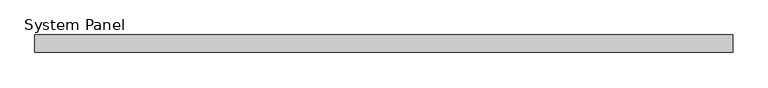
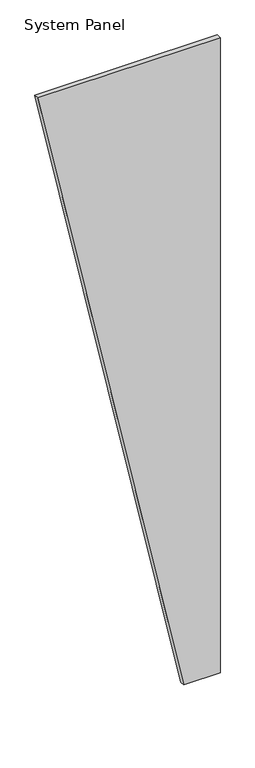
"""IFC4 building model written with IfcOpenShell, lengths in millimetres: plate geometry, System Panel : Purline 25mm Vertical - Plain RHEA - PUR."""

from ifc_helpers import new_model, si_unit, frame, origin, place, context, project, spatial, polyline, outline, extrude, source, transform, mapped, element, save


def system_panel_06980da2(model_context):
    return source(origin(), model_context, "Body", "SweptSolid", [
        extrude(outline(polyline([(0.0, 300.0), (0.0, 500.0), (3679.9704237, 500.0), (3679.9704237, -500.0), (0.0, 300.0)])), frame((0.0, -25.0, 0.0), z_axis=(0.0, 1.0, 0.0), x_axis=(0.0, 0.0, 1.0)), (0.0, 0.0, 1.0), 25.0),
    ])


if __name__ == "__main__":
    model = new_model("IFC4")
    model_context = context("Model", 3, world=origin())
    ifc_project = project(units=[si_unit("LENGTHUNIT", "METRE", prefix="MILLI")], contexts=[model_context])
    site = spatial("IfcSite", under=ifc_project)
    building = spatial("IfcBuilding", under=site)
    placement = place(None, origin())
    system_panel_shape = system_panel_06980da2(model_context)
    element("IfcPlate", 1, ObjectType="System Panel : Purline 25mm Vertical - Plain RHEA - PUR", at=placement, inside=building, context=model_context, shape_type="MappedRepresentation", body=[
        mapped(system_panel_shape, transform((0.0, 0.0, 0.0), x_axis=(1.0, 0.0, 0.0), y_axis=(0.0, 1.0, 0.0), z_axis=(0.0, 0.0, 1.0))),
    ])
    save(model, "model.ifc")
